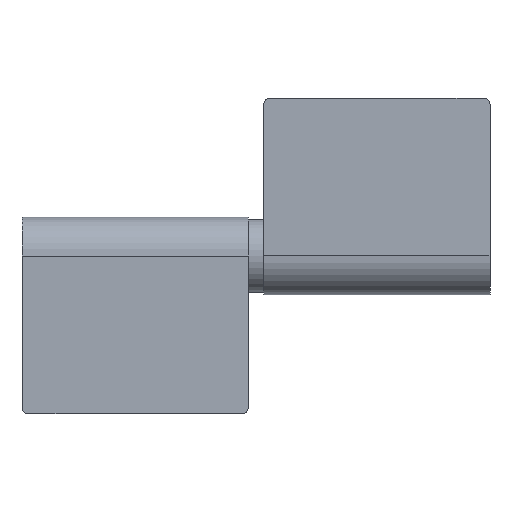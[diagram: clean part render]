
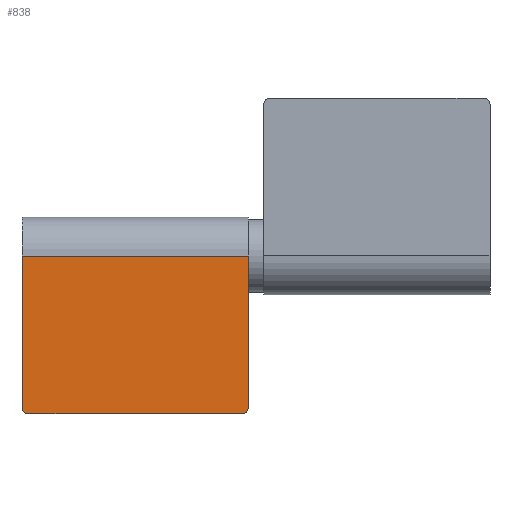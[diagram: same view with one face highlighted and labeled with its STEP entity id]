
A CAD part, front view. The second image highlights one B-rep face of the part: STEP entity #838.
In plain terms, the highlighted planar face has unit normal (0, -1, 0).
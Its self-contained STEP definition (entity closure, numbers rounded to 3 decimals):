
#6 = EDGE_CURVE ( 'NONE', #507, #817, #869, .T. ) ;
#17 = VERTEX_POINT ( 'NONE', #361 ) ;
#86 = ORIENTED_EDGE ( 'NONE', *, *, #6, .T. ) ;
#88 = LINE ( 'NONE', #603, #160 ) ;
#117 = ORIENTED_EDGE ( 'NONE', *, *, #767, .F. ) ;
#122 = DIRECTION ( 'NONE',  ( -1., 0., 0. ) ) ;
#152 = CARTESIAN_POINT ( 'NONE',  ( -19., 0., 0. ) ) ;
#160 = VECTOR ( 'NONE', #914, 1000. ) ;
#185 = DIRECTION ( 'NONE',  ( 0., 0., -1. ) ) ;
#186 = ORIENTED_EDGE ( 'NONE', *, *, #520, .T. ) ;
#207 = LINE ( 'NONE', #212, #834 ) ;
#212 = CARTESIAN_POINT ( 'NONE',  ( 19., 0., 0. ) ) ;
#217 = CARTESIAN_POINT ( 'NONE',  ( -19., 0., -25.5 ) ) ;
#236 = DIRECTION ( 'NONE',  ( 0., 0., 1. ) ) ;
#278 = AXIS2_PLACEMENT_3D ( 'NONE', #738, #651, #358 ) ;
#296 = VERTEX_POINT ( 'NONE', #446 ) ;
#321 = VECTOR ( 'NONE', #185, 1000. ) ;
#352 = CARTESIAN_POINT ( 'NONE',  ( 18., 0., -26.5 ) ) ;
#358 = DIRECTION ( 'NONE',  ( 0., 0., 1. ) ) ;
#361 = CARTESIAN_POINT ( 'NONE',  ( 19., 0., 0. ) ) ;
#440 = ORIENTED_EDGE ( 'NONE', *, *, #910, .T. ) ;
#446 = CARTESIAN_POINT ( 'NONE',  ( -18., 0., -26.5 ) ) ;
#456 = FACE_OUTER_BOUND ( 'NONE', #482, .T. ) ;
#482 = EDGE_LOOP ( 'NONE', ( #440, #755, #739, #86, #117, #186 ) ) ;
#496 = EDGE_CURVE ( 'NONE', #837, #296, #929, .T. ) ;
#507 = VERTEX_POINT ( 'NONE', #352 ) ;
#520 = EDGE_CURVE ( 'NONE', #17, #804, #207, .T. ) ;
#532 = PLANE ( 'NONE',  #906 ) ;
#540 = AXIS2_PLACEMENT_3D ( 'NONE', #924, #560, #549 ) ;
#549 = DIRECTION ( 'NONE',  ( 0., 0., 1. ) ) ;
#560 = DIRECTION ( 'NONE',  ( 0., -1., 0. ) ) ;
#603 = CARTESIAN_POINT ( 'NONE',  ( 19., 0., -26.5 ) ) ;
#616 = CARTESIAN_POINT ( 'NONE',  ( -19., 0., 0. ) ) ;
#622 = LINE ( 'NONE', #616, #321 ) ;
#651 = DIRECTION ( 'NONE',  ( 0., -1., 0. ) ) ;
#680 = DIRECTION ( 'NONE',  ( 0., 0., -1. ) ) ;
#684 = EDGE_CURVE ( 'NONE', #507, #296, #88, .T. ) ;
#738 = CARTESIAN_POINT ( 'NONE',  ( -18., 0., -25.5 ) ) ;
#739 = ORIENTED_EDGE ( 'NONE', *, *, #684, .F. ) ;
#755 = ORIENTED_EDGE ( 'NONE', *, *, #496, .T. ) ;
#761 = LINE ( 'NONE', #763, #779 ) ;
#763 = CARTESIAN_POINT ( 'NONE',  ( 19., 0., 0. ) ) ;
#767 = EDGE_CURVE ( 'NONE', #17, #817, #761, .T. ) ;
#779 = VECTOR ( 'NONE', #680, 1000. ) ;
#804 = VERTEX_POINT ( 'NONE', #152 ) ;
#817 = VERTEX_POINT ( 'NONE', #896 ) ;
#822 = CARTESIAN_POINT ( 'NONE',  ( 19., 0., 0. ) ) ;
#830 = DIRECTION ( 'NONE',  ( 0., 1., 0. ) ) ;
#834 = VECTOR ( 'NONE', #122, 1000. ) ;
#837 = VERTEX_POINT ( 'NONE', #217 ) ;
#838 = ADVANCED_FACE ( 'NONE', ( #456 ), #532, .F. ) ;
#869 = CIRCLE ( 'NONE', #540, 1. ) ;
#896 = CARTESIAN_POINT ( 'NONE',  ( 19., 0., -25.5 ) ) ;
#906 = AXIS2_PLACEMENT_3D ( 'NONE', #822, #830, #236 ) ;
#910 = EDGE_CURVE ( 'NONE', #804, #837, #622, .T. ) ;
#914 = DIRECTION ( 'NONE',  ( -1., 0., 0. ) ) ;
#924 = CARTESIAN_POINT ( 'NONE',  ( 18., 0., -25.5 ) ) ;
#929 = CIRCLE ( 'NONE', #278, 1. ) ;
